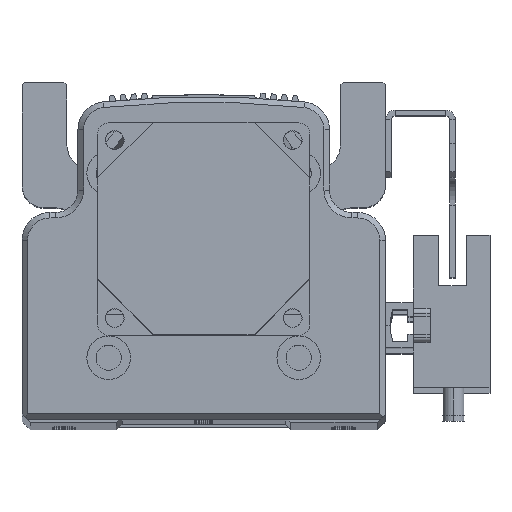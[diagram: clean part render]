
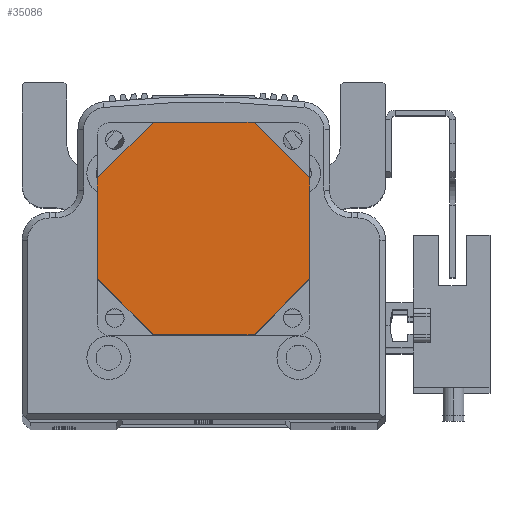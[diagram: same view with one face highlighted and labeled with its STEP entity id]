
A CAD part, top view. The second image highlights one B-rep face of the part: STEP entity #35086.
In plain terms, the highlighted planar face has unit normal (0, 0, 1) as drawn and (0, 0, -1) by its records, which use the part's own axes.
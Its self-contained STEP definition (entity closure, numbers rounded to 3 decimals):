
#74 = CARTESIAN_POINT ( 'NONE',  ( -19., -9., -84. ) ) ;
#119 = CARTESIAN_POINT ( 'NONE',  ( -19., 9., -84. ) ) ;
#3015 = EDGE_CURVE ( 'NONE', #21161, #21185, #37358, .T. ) ;
#3051 = EDGE_CURVE ( 'NONE', #24843, #24885, #37429, .T. ) ;
#3055 = EDGE_CURVE ( 'NONE', #24830, #24841, #37423, .T. ) ;
#3093 = EDGE_CURVE ( 'NONE', #24824, #24886, #37457, .T. ) ;
#3112 = EDGE_CURVE ( 'NONE', #21185, #24843, #37494, .T. ) ;
#3119 = EDGE_CURVE ( 'NONE', #24885, #24830, #37519, .T. ) ;
#3201 = EDGE_CURVE ( 'NONE', #24886, #21161, #37639, .T. ) ;
#3211 = EDGE_CURVE ( 'NONE', #24841, #24824, #37668, .T. ) ;
#5467 = CARTESIAN_POINT ( 'NONE',  ( -19., 9., -84. ) ) ;
#5507 = DIRECTION ( 'NONE',  ( 0., 1., 0. ) ) ;
#5717 = CARTESIAN_POINT ( 'NONE',  ( 19., 9., -84. ) ) ;
#5759 = DIRECTION ( 'NONE',  ( 1., 0., 0. ) ) ;
#5823 = DIRECTION ( 'NONE',  ( 0., -1., 0. ) ) ;
#5841 = CARTESIAN_POINT ( 'NONE',  ( 9., 19., -84. ) ) ;
#5943 = DIRECTION ( 'NONE',  ( -1., 0., 0. ) ) ;
#5944 = CARTESIAN_POINT ( 'NONE',  ( 9., -19., -84. ) ) ;
#5957 = CARTESIAN_POINT ( 'NONE',  ( -9., 19., -84. ) ) ;
#5962 = CARTESIAN_POINT ( 'NONE',  ( 19., 9., -84. ) ) ;
#5972 = DIRECTION ( 'NONE',  ( 0.707, 0.707, 0. ) ) ;
#5987 = DIRECTION ( 'NONE',  ( 0.707, -0.707, 0. ) ) ;
#6184 = CARTESIAN_POINT ( 'NONE',  ( -9., -19., -84. ) ) ;
#6196 = DIRECTION ( 'NONE',  ( -0.707, 0.707, 0. ) ) ;
#6199 = CARTESIAN_POINT ( 'NONE',  ( 19., -9., -84. ) ) ;
#6202 = DIRECTION ( 'NONE',  ( -0.707, -0.707, 0. ) ) ;
#9871 = CARTESIAN_POINT ( 'NONE',  ( 19., -9., -84. ) ) ;
#9873 = CARTESIAN_POINT ( 'NONE',  ( -9., 19., -84. ) ) ;
#9891 = CARTESIAN_POINT ( 'NONE',  ( 9., 19., -84. ) ) ;
#9892 = CARTESIAN_POINT ( 'NONE',  ( -9., -19., -84. ) ) ;
#10118 = CARTESIAN_POINT ( 'NONE',  ( 9., -19., -84. ) ) ;
#10120 = CARTESIAN_POINT ( 'NONE',  ( 19., 9., -84. ) ) ;
#11344 = ORIENTED_EDGE ( 'NONE', *, *, #3119, .T. ) ;
#11352 = ORIENTED_EDGE ( 'NONE', *, *, #3055, .T. ) ;
#11379 = ORIENTED_EDGE ( 'NONE', *, *, #3051, .T. ) ;
#11380 = ORIENTED_EDGE ( 'NONE', *, *, #3015, .T. ) ;
#11388 = ORIENTED_EDGE ( 'NONE', *, *, #3093, .T. ) ;
#11404 = ORIENTED_EDGE ( 'NONE', *, *, #3112, .T. ) ;
#11424 = ORIENTED_EDGE ( 'NONE', *, *, #3201, .T. ) ;
#11425 = ORIENTED_EDGE ( 'NONE', *, *, #3211, .T. ) ;
#14811 = AXIS2_PLACEMENT_3D ( 'NONE', #20125, #20131, #20097 ) ;
#18880 = FACE_OUTER_BOUND ( 'NONE', #21716, .T. ) ;
#20086 = PLANE ( 'NONE',  #14811 ) ;
#20097 = DIRECTION ( 'NONE',  ( 1., 0., 0. ) ) ;
#20125 = CARTESIAN_POINT ( 'NONE',  ( 0., 0., -84. ) ) ;
#20131 = DIRECTION ( 'NONE',  ( 0., 0., 1. ) ) ;
#21161 = VERTEX_POINT ( 'NONE', #74 ) ;
#21185 = VERTEX_POINT ( 'NONE', #119 ) ;
#21716 = EDGE_LOOP ( 'NONE', ( #11424, #11380, #11404, #11379, #11344, #11352, #11425, #11388 ) ) ;
#24824 = VERTEX_POINT ( 'NONE', #10118 ) ;
#24830 = VERTEX_POINT ( 'NONE', #10120 ) ;
#24841 = VERTEX_POINT ( 'NONE', #9871 ) ;
#24843 = VERTEX_POINT ( 'NONE', #9873 ) ;
#24885 = VERTEX_POINT ( 'NONE', #9891 ) ;
#24886 = VERTEX_POINT ( 'NONE', #9892 ) ;
#35086 = ADVANCED_FACE ( 'NONE', ( #18880 ), #20086, .F. ) ;
#37358 = LINE ( 'NONE', #5467, #37360 ) ;
#37360 = VECTOR ( 'NONE', #5507, 1000. ) ;
#37367 = VECTOR ( 'NONE', #5759, 1000. ) ;
#37368 = VECTOR ( 'NONE', #5823, 1000. ) ;
#37423 = LINE ( 'NONE', #5717, #37368 ) ;
#37429 = LINE ( 'NONE', #5841, #37367 ) ;
#37457 = LINE ( 'NONE', #5944, #37483 ) ;
#37483 = VECTOR ( 'NONE', #5943, 1000. ) ;
#37494 = LINE ( 'NONE', #5957, #37541 ) ;
#37519 = LINE ( 'NONE', #5962, #37556 ) ;
#37541 = VECTOR ( 'NONE', #5972, 1000. ) ;
#37556 = VECTOR ( 'NONE', #5987, 1000. ) ;
#37639 = LINE ( 'NONE', #6184, #37658 ) ;
#37658 = VECTOR ( 'NONE', #6196, 1000. ) ;
#37668 = LINE ( 'NONE', #6199, #37669 ) ;
#37669 = VECTOR ( 'NONE', #6202, 1000. ) ;
